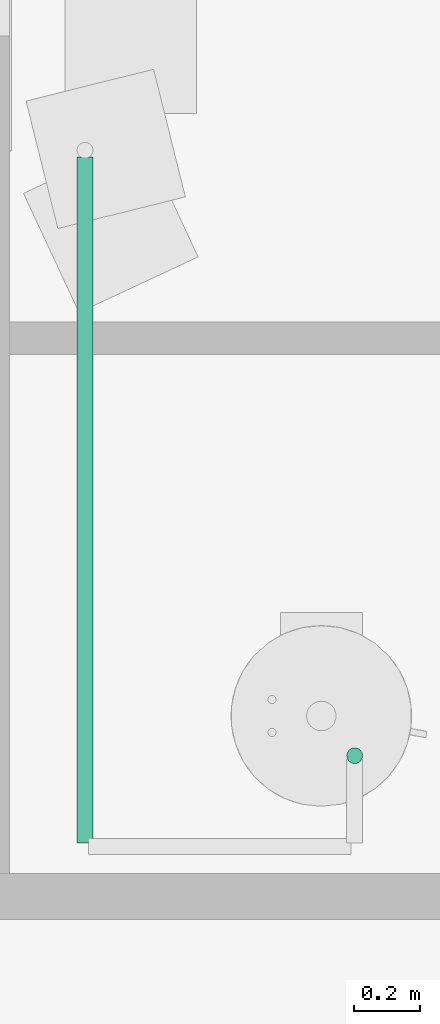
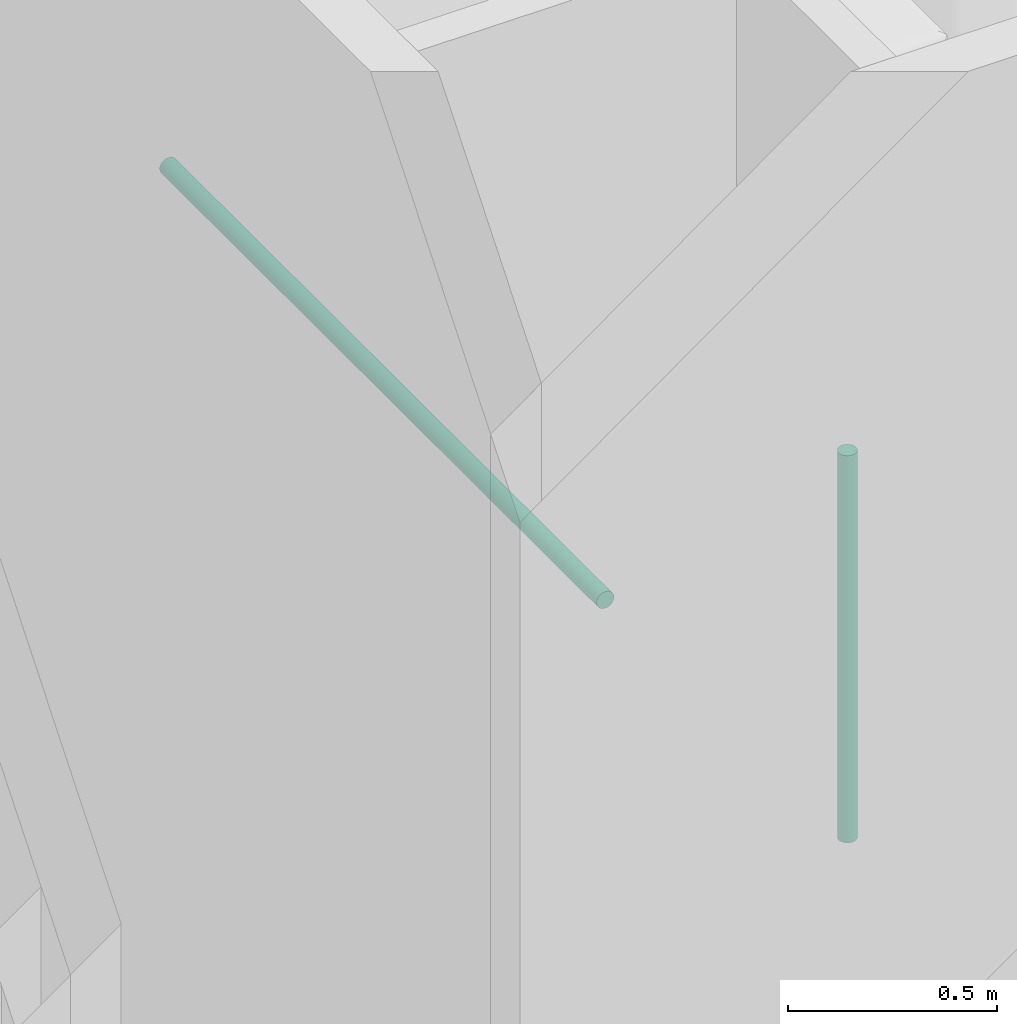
# One storey, part 19 of 69: 2 pipe segments.
"""IFC4 building model written with IfcOpenShell, lengths in centimetres."""

import ifcopenshell
import ifcopenshell.guid

model = None  # the IFC model being written
_history = None  # IfcOwnerHistory: only IFC2X3 demands one
_inside = {}  # id of a spatial element -> (the spatial element, [elements in it])
_under = {}  # id of a project, library or spatial element -> (it, [spatial elements below it])
_declared = {}  # id of a project -> (the project, [libraries it declares])
_typed = {}  # id of a type object -> (the type object, [elements of that type])
_made_of = {}  # id of a material, layer set ... -> (it, [elements and type objects made of it])


def new_model(schema):
    """Start an empty IFC model of exactly this schema.

    Asked for "IFC4X3", IfcOpenShell would pick the latest addendum, in which some entities
    have other attributes; the version numbers below select the first issue.
    IFC2X3 requires an IfcOwnerHistory on every rooted entity: one is made here for all.
    """
    global model, _history
    if schema == "IFC4X3":
        model = ifcopenshell.file(schema_version=(4, 3, 0, 0))
    else:
        model = ifcopenshell.file(schema=schema)
    _inside.clear()
    _under.clear()
    _declared.clear()
    _typed.clear()
    _made_of.clear()
    _history = None
    if model.schema == "IFC2X3":
        org = make("IfcOrganization", Name="unknown")
        user = make(
            "IfcPersonAndOrganization",
            ThePerson=make("IfcPerson", FamilyName="unknown"),
            TheOrganization=org,
        )
        app = make(
            "IfcApplication",
            ApplicationDeveloper=org,
            Version="unknown",
            ApplicationFullName="unknown",
            ApplicationIdentifier="unknown",
        )
        _history = make(
            "IfcOwnerHistory",
            OwningUser=user,
            OwningApplication=app,
            ChangeAction="ADDED",
            CreationDate=0,
        )
    return model


def make(cls, **values):
    """One entity of the class cls with the attributes given. An attribute that is None is left unset."""
    return model.create_entity(
        cls, **{name: value for name, value in values.items() if value is not None}
    )


def entity(cls, *values):
    """Any entity or typed value of the class cls, its attributes in the order of the schema. None: left unset."""
    e = model.create_entity(cls)
    for i, value in enumerate(values):
        if value is not None:
            e[i] = value
    return e


def rooted(cls, **values):
    """An entity with a GlobalId (a new one), such as an element, a storey or a relation."""
    return make(cls, GlobalId=ifcopenshell.guid.new(), OwnerHistory=_history, **values)


def si_unit(unit_type, name, prefix=None):
    """IfcSIUnit, for example si_unit("LENGTHUNIT", "METRE", prefix="MILLI")."""
    return make("IfcSIUnit", UnitType=unit_type, Prefix=prefix, Name=name)


def converted_unit(unit_type, name, factor, base, dimensions=None, offset=None):
    """IfcConversionBasedUnit, such as the inch: factor (a typed value) times the base unit."""
    return make(
        "IfcConversionBasedUnit"
        if offset is None
        else "IfcConversionBasedUnitWithOffset",
        ConversionOffset=offset,
        Dimensions=None
        if dimensions is None
        else entity("IfcDimensionalExponents", *dimensions),
        UnitType=unit_type,
        Name=name,
        ConversionFactor=make(
            "IfcMeasureWithUnit", ValueComponent=factor, UnitComponent=base
        ),
    )


def derived_unit(unit_type, elements):
    """IfcDerivedUnit: a product of units, each with its exponent."""
    return make(
        "IfcDerivedUnit",
        Elements=[
            make("IfcDerivedUnitElement", Unit=unit, Exponent=power)
            for unit, power in elements
        ],
        UnitType=unit_type,
    )


def assignment(units):
    """IfcUnitAssignment: the units of a project."""
    return None if units is None else make("IfcUnitAssignment", Units=units)


def point(xyz):
    """IfcCartesianPoint."""
    return None if xyz is None else make("IfcCartesianPoint", Coordinates=xyz)


def direction(xyz):
    """IfcDirection."""
    return None if xyz is None else make("IfcDirection", DirectionRatios=xyz)


def frame(location, z_axis=None, x_axis=None):
    """IfcAxis2Placement3D, a coordinate frame: its origin and axes. An axis left out is left unset."""
    return make(
        "IfcAxis2Placement3D",
        Location=point(location),
        Axis=direction(z_axis),
        RefDirection=direction(x_axis),
    )


def origin():
    """The frame at (0, 0, 0) with its axes left unset."""
    return frame((0.0, 0.0, 0.0))


def place(relative_to, where):
    """IfcLocalPlacement: puts the frame where relative to a parent placement (None: the world)."""
    return make(
        "IfcLocalPlacement", PlacementRelTo=relative_to, RelativePlacement=where
    )


def context(
    kind, dimensions, precision=None, world=None, true_north=None, identifier=None
):
    """IfcGeometricRepresentationContext, for example the 3D "Model" context."""
    return make(
        "IfcGeometricRepresentationContext",
        ContextIdentifier=identifier,
        ContextType=kind,
        CoordinateSpaceDimension=dimensions,
        Precision=precision,
        WorldCoordinateSystem=world,
        TrueNorth=true_north,
    )


def subcontext(parent, identifier, kind, view, scale=None):
    """IfcGeometricRepresentationSubContext, for example "Body" below "Model"."""
    return make(
        "IfcGeometricRepresentationSubContext",
        ContextIdentifier=identifier,
        ContextType=kind,
        ParentContext=parent,
        TargetScale=scale,
        TargetView=view,
    )


def project(units=None, contexts=None):
    """IfcProject with its units and contexts."""
    return rooted(
        "IfcProject",
        Name="project",
        RepresentationContexts=contexts,
        UnitsInContext=assignment(units),
    )


def spatial(cls, under=None, at=None, **own):
    """A site, building, storey or space (cls), placed at a placement, below another one or the project."""
    s = rooted(cls, ObjectPlacement=at, **own)
    if under is not None:
        _under.setdefault(under.id(), (under, []))[1].append(s)
    return s


def point_list(points):
    """IfcCartesianPointList2D or 3D."""
    cls = (
        "IfcCartesianPointList2D" if len(points[0]) == 2 else "IfcCartesianPointList3D"
    )
    return make(cls, CoordList=points)


def arc(*indices):
    """IfcArcIndex: an arc through three numbered points of an indexed curve."""
    return model.create_entity("IfcArcIndex", indices)


def indexed_curve(points, segments=None, self_intersect=None):
    """IfcIndexedPolyCurve: lines and arcs through numbered points (the first is 1)."""
    return make(
        "IfcIndexedPolyCurve",
        Points=point_list(points),
        Segments=segments,
        SelfIntersect=self_intersect,
    )


def outline(outer, holes=None, kind="AREA"):
    """IfcArbitraryClosedProfileDef: a profile drawn as a closed curve; with holes, ...WithVoids."""
    if holes is None:
        return make("IfcArbitraryClosedProfileDef", ProfileType=kind, OuterCurve=outer)
    return make(
        "IfcArbitraryProfileDefWithVoids",
        ProfileType=kind,
        OuterCurve=outer,
        InnerCurves=holes,
    )


def extrude(swept, where, along, depth):
    """IfcExtrudedAreaSolid: the profile swept, set in the frame where, extruded along a direction by depth."""
    return make(
        "IfcExtrudedAreaSolid",
        SweptArea=swept,
        Position=where,
        ExtrudedDirection=direction(along),
        Depth=depth,
    )


def shape(context_of_items, identifier, shape_type, items):
    """IfcShapeRepresentation: the items that make up one representation, for example the "Body"."""
    return make(
        "IfcShapeRepresentation",
        ContextOfItems=context_of_items,
        RepresentationIdentifier=identifier,
        RepresentationType=shape_type,
        Items=items,
    )


def made_of(thing, what):
    """Note that an element or type object is made of a material, layer set ...; save() writes the relation."""
    if what is not None:
        _made_of.setdefault(what.id(), (what, []))[1].append(thing)
    return thing


def type_object(cls, material=None, **own):
    """A type object (cls), such as IfcWallType, which elements share."""
    return made_of(rooted(cls, **own), material)


def element(
    cls,
    number,
    at=None,
    inside=None,
    cuts=None,
    type_object=None,
    material=None,
    context=None,
    identifier="Body",
    shape_type=None,
    held_by="IfcProductDefinitionShape",
    body=None,
    shapes=None,
    **own,
):
    """One element of the class cls, such as IfcWall. Its Tag is "e" and its number.

    at: its placement. inside: the storey or other place that contains it. cuts: it is an
    opening in that element (IfcRelVoidsElement). A single representation is given by context,
    identifier, shape_type and body (its items); several are given by shapes. held_by: the class
    of the entity that holds the representations. save() writes the other relations.
    """
    e = rooted(cls, Tag="e%d" % number, ObjectPlacement=at, **own)
    if body is not None:
        shapes = [shape(context, identifier, shape_type, body)]
    if shapes is not None:
        e.Representation = make(held_by, Representations=shapes)
    if inside is not None:
        _inside.setdefault(inside.id(), (inside, []))[1].append(e)
    if cuts is not None:
        rooted(
            "IfcRelVoidsElement", RelatingBuildingElement=cuts, RelatedOpeningElement=e
        )
    if type_object is not None:
        _typed.setdefault(type_object.id(), (type_object, []))[1].append(e)
    return made_of(e, material)


def aggregate(whole, parts):
    """IfcRelAggregates: a whole, such as a stair, and the parts it consists of."""
    return rooted("IfcRelAggregates", RelatingObject=whole, RelatedObjects=parts)


def save(model, path):
    """Write the relations noted so far, then the file.

    IfcRelAggregates (storeys below a building ...), IfcRelContainedInSpatialStructure (elements
    in a storey), IfcRelDefinesByType, IfcRelAssociatesMaterial and IfcRelDeclares: one each for
    every whole, place, type object, material and project.
    """
    for whole, parts in _under.values():
        aggregate(whole, parts)
    for where, things in _inside.values():
        rooted(
            "IfcRelContainedInSpatialStructure",
            RelatedElements=things,
            RelatingStructure=where,
        )
    for kind, things in _typed.values():
        rooted("IfcRelDefinesByType", RelatedObjects=things, RelatingType=kind)
    for what, things in _made_of.values():
        rooted("IfcRelAssociatesMaterial", RelatedObjects=things, RelatingMaterial=what)
    for by, libraries in _declared.values():
        rooted("IfcRelDeclares", RelatingContext=by, RelatedDefinitions=libraries)
    model.write(path)


model = new_model("IFC4")

# Units and contexts
model_context = context("Model", 3, precision=0.001, world=origin(), true_north=direction((6.123233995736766e-17, 1.0)))
body_context = subcontext(model_context, "Body", "Model", "MODEL_VIEW")
ifc_project = project(units=[si_unit("LENGTHUNIT", "METRE", prefix="CENTI"), si_unit("AREAUNIT", "SQUARE_METRE"), si_unit("VOLUMEUNIT", "CUBIC_METRE"), derived_unit("THERMALTRANSMITTANCEUNIT", [(si_unit("MASSUNIT", "GRAM", prefix="KILO"), 1), (si_unit("THERMODYNAMICTEMPERATUREUNIT", "KELVIN"), -1), (si_unit("TIMEUNIT", "SECOND"), -3)]), converted_unit("PLANEANGLEUNIT", "DEGREE", entity("IfcPlaneAngleMeasure", 0.017453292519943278), si_unit("PLANEANGLEUNIT", "RADIAN"), dimensions=[0, 0, 0, 0, 0, 0, 0]), derived_unit("MASSDENSITYUNIT", [(si_unit("MASSUNIT", "GRAM", prefix="KILO"), 1), (si_unit("LENGTHUNIT", "METRE"), -3)]), derived_unit("VAPORPERMEABILITYUNIT", [(si_unit("LENGTHUNIT", "METRE"), -1), (si_unit("TIMEUNIT", "SECOND"), 1)]), derived_unit("USERDEFINED", [(si_unit("MASSUNIT", "GRAM", prefix="KILO"), 1), (si_unit("TIMEUNIT", "SECOND"), -3), (si_unit("LENGTHUNIT", "METRE"), 3), (si_unit("ELECTRICCURRENTUNIT", "AMPERE"), -2)]), derived_unit("SPECIFICHEATCAPACITYUNIT", [(si_unit("THERMODYNAMICTEMPERATUREUNIT", "KELVIN"), -1), (si_unit("LENGTHUNIT", "METRE"), 2), (si_unit("TIMEUNIT", "SECOND"), -2)]), derived_unit("THERMALCONDUCTANCEUNIT", [(si_unit("MASSUNIT", "GRAM", prefix="KILO"), 1), (si_unit("THERMODYNAMICTEMPERATUREUNIT", "KELVIN"), -1), (si_unit("TIMEUNIT", "SECOND"), -3), (si_unit("LENGTHUNIT", "METRE"), 1)]), si_unit("PRESSUREUNIT", "PASCAL"), derived_unit("MODULUSOFELASTICITYUNIT", [(si_unit("MASSUNIT", "GRAM", prefix="KILO"), 1), (si_unit("LENGTHUNIT", "METRE"), -1), (si_unit("TIMEUNIT", "SECOND"), -2)]), derived_unit("THERMALEXPANSIONCOEFFICIENTUNIT", [(si_unit("THERMODYNAMICTEMPERATUREUNIT", "KELVIN"), -1)])], contexts=[model_context])

# Site, building, storey
site_placement = place(None, origin())
site = spatial("IfcSite", under=ifc_project, at=site_placement, Name="Default", CompositionType="ELEMENT")
building_placement = place(site_placement, origin())
building = spatial("IfcBuilding", under=site, at=building_placement, Name="IDS Escape Game Building", CompositionType="ELEMENT")
storey_placement = place(building_placement, origin())
storey = spatial("IfcBuildingStorey", under=building, at=storey_placement, Name="00_Ground Floor", CompositionType="ELEMENT", Elevation=0.0)

# Pipe segments
pipe_segment_type = type_object("IfcPipeSegmentType", Name="Pipe Types:Piping Aluminum", PredefinedType="NOTDEFINED")
pipe_segment_1_placement = place(storey_placement, origin())
element("IfcPipeSegment", 1, at=pipe_segment_1_placement, inside=storey, type_object=pipe_segment_type, Name="Pipe Types:Piping Aluminum", ObjectType="Pipe Types:Piping Aluminum", PredefinedType="NOTDEFINED", context=body_context, shape_type="SweptSolid", body=[
    extrude(outline(indexed_curve([(2.412999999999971, 0.0), (1.7062486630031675, 1.7062486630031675), (0.0, 2.412999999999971), (-1.7062486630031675, 1.7062486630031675), (-2.412999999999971, 0.0), (-1.7062486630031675, -1.7062486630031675), (0.0, -2.412999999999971), (1.7062486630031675, -1.7062486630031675)], segments=[arc(1, 2, 3), arc(3, 4, 5), arc(5, 6, 7), arc(7, 8, 1)], self_intersect=False)), frame((1588.1500000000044, 686.9000000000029, 128.0), z_axis=(0.0, 0.0, 1.0), x_axis=(-1.0, 0.0, 0.0)), (0.0, 0.0, 1.0), 112.90000000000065),
])
pipe_segment_2_placement = place(storey_placement, origin())
element("IfcPipeSegment", 2, at=pipe_segment_2_placement, inside=storey, type_object=pipe_segment_type, Name="Pipe Types:Piping Aluminum", ObjectType="Pipe Types:Piping Aluminum", PredefinedType="NOTDEFINED", context=body_context, shape_type="SweptSolid", body=[
    extrude(outline(indexed_curve([(2.412999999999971, 0.0), (1.7062486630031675, 1.7062486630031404), (0.0, 2.412999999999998), (-1.7062486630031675, 1.7062486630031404), (-2.412999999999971, 2.7071678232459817e-14), (-1.7062486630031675, -1.7062486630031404), (0.0, -2.412999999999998), (1.7062486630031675, -1.7062486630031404)], segments=[arc(1, 2, 3), arc(3, 4, 5), arc(5, 6, 7), arc(7, 8, 1)], self_intersect=False)), frame((1506.0467168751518, 660.3648279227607, 242.0), z_axis=(0.0, 1.0, 0.0), x_axis=(1.0, 0.0, 0.0)), (0.0, 0.0, 1.0), 208.80000000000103),
])

save(model, "model.ifc")
